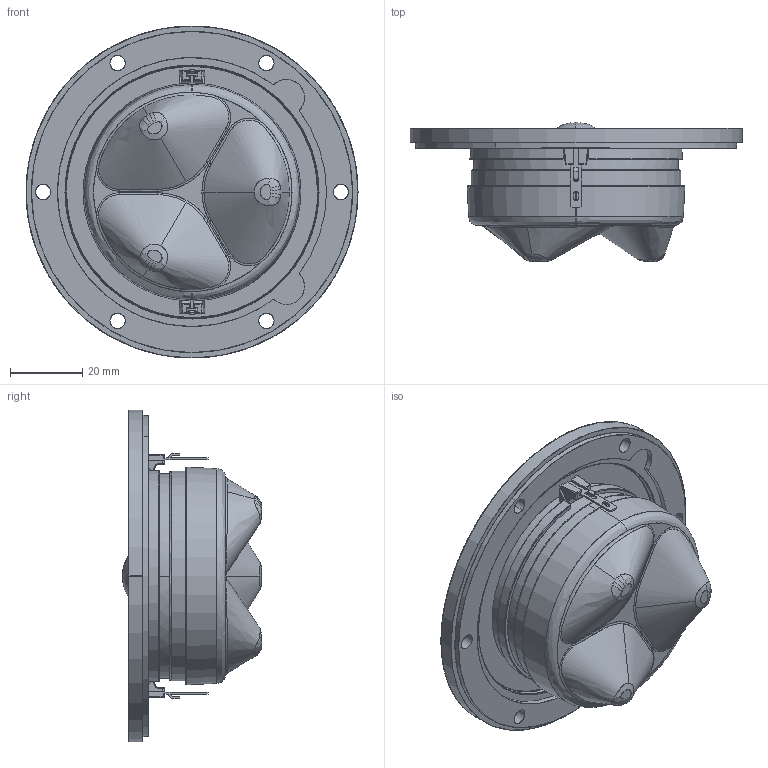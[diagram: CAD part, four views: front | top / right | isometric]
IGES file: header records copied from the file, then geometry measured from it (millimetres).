
Start section: SolidWorks IGES file using analytic representation for surfaces
Global section: file name: W:\TT\D21\D2104-712000.IGS; native system: SolidWorks 2019; preprocessor: SolidWorks 2019; author: mhn; date: 201124.110359; units: millimetre
Bounding box: 92 x 38.6 x 92 mm (x, y, z)
Surface area: 27174.2 mm2 (no closed solid volume)
Topology: 0 solids, 0 shells, 518 faces, 8173 edges, 8170 vertices
Faces by surface type: bspline 314, revolution 204
